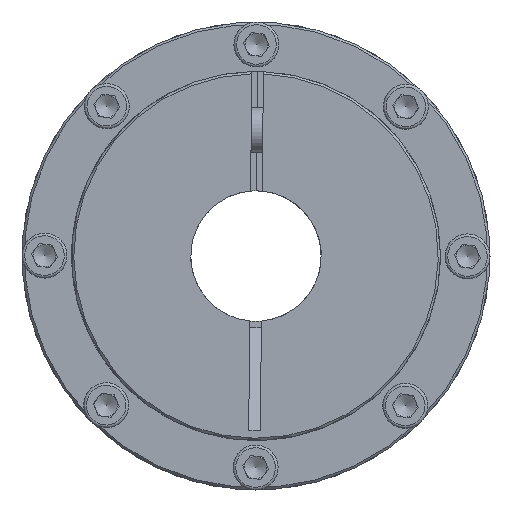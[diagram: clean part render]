
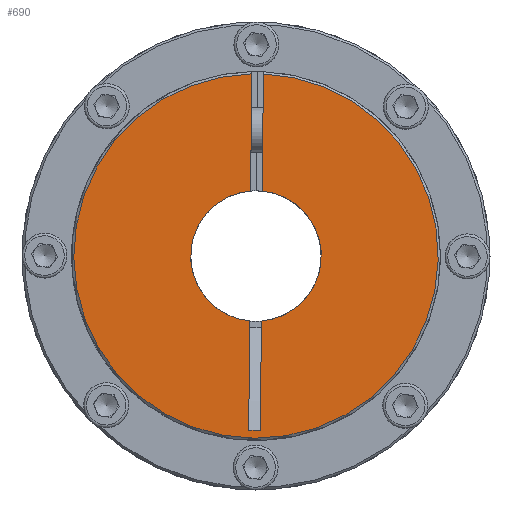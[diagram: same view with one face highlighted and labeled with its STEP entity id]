
A CAD part, left-side view. The second image highlights one B-rep face of the part: STEP entity #690.
In plain terms, the highlighted planar face has unit normal (-1, 0, 0).
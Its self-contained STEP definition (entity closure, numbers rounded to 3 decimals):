
#690 = ADVANCED_FACE( 'NONE', ( #1364 ), #1365, .F. );
#1364 = FACE_OUTER_BOUND( '', #2110, .T. );
#1365 = PLANE( '', #2111 );
#2110 = EDGE_LOOP( '', ( #3116, #3117, #3118, #3119, #3120, #3121, #3122, #3123 ) );
#2111 = AXIS2_PLACEMENT_3D( '', #3124, #3125, #3126 );
#3116 = ORIENTED_EDGE( '', *, *, #4084, .T. );
#3117 = ORIENTED_EDGE( '', *, *, #4085, .T. );
#3118 = ORIENTED_EDGE( '', *, *, #3973, .T. );
#3119 = ORIENTED_EDGE( '', *, *, #3999, .T. );
#3120 = ORIENTED_EDGE( '', *, *, #4086, .F. );
#3121 = ORIENTED_EDGE( '', *, *, #4087, .T. );
#3122 = ORIENTED_EDGE( '', *, *, #4088, .F. );
#3123 = ORIENTED_EDGE( '', *, *, #4089, .T. );
#3124 = CARTESIAN_POINT( '', ( 0., 7., 0. ) );
#3125 = DIRECTION( '', ( 1., 0., 0. ) );
#3126 = DIRECTION( '', ( 0., 1., 0. ) );
#3973 = EDGE_CURVE( '', #4585, #4586, #4587, .T. );
#3999 = EDGE_CURVE( 'NONE', #4586, #4626, #4627, .F. );
#4084 = EDGE_CURVE( 'NONE', #4749, #4750, #4751, .T. );
#4085 = EDGE_CURVE( '', #4750, #4585, #4752, .T. );
#4086 = EDGE_CURVE( '', #4753, #4626, #4754, .F. );
#4087 = EDGE_CURVE( '', #4753, #4755, #4756, .T. );
#4088 = EDGE_CURVE( 'NONE', #4757, #4755, #4758, .F. );
#4089 = EDGE_CURVE( 'NONE', #4757, #4749, #4759, .T. );
#4585 = VERTEX_POINT( '', #5506 );
#4586 = VERTEX_POINT( 'NONE', #5507 );
#4587 = LINE( '', #5508, #5509 );
#4626 = VERTEX_POINT( 'NONE', #5554 );
#4627 = CIRCLE( '', #5555, 40.5 );
#4749 = VERTEX_POINT( 'NONE', #5697 );
#4750 = VERTEX_POINT( '', #5698 );
#4751 = LINE( '', #5699, #5700 );
#4752 = CIRCLE( '', #5701, 14.5 );
#4753 = VERTEX_POINT( '', #5702 );
#4754 = LINE( '', #5703, #5704 );
#4755 = VERTEX_POINT( '', #5705 );
#4756 = CIRCLE( '', #5706, 14.5 );
#4757 = VERTEX_POINT( 'NONE', #5707 );
#4758 = LINE( '', #5708, #5709 );
#4759 = LINE( '', #5710, #5711 );
#5506 = CARTESIAN_POINT( '', ( 0., 1.3, 14.442 ) );
#5507 = CARTESIAN_POINT( '', ( 0., 1.3, 40.479 ) );
#5508 = CARTESIAN_POINT( '', ( 0., 1.3, 0. ) );
#5509 = VECTOR( '', #6284, 1000. );
#5554 = CARTESIAN_POINT( '', ( 0., -1.3, 40.479 ) );
#5555 = AXIS2_PLACEMENT_3D( '', #6324, #6325, #6326 );
#5697 = CARTESIAN_POINT( '', ( 0., 1.3, -38.697 ) );
#5698 = CARTESIAN_POINT( '', ( 0., 1.3, -14.442 ) );
#5699 = CARTESIAN_POINT( '', ( 0., 1.3, 0. ) );
#5700 = VECTOR( '', #6440, 1000. );
#5701 = AXIS2_PLACEMENT_3D( '', #6441, #6442, #6443 );
#5702 = CARTESIAN_POINT( '', ( 0., -1.3, 14.442 ) );
#5703 = CARTESIAN_POINT( '', ( 0., -1.3, 11. ) );
#5704 = VECTOR( '', #6444, 1000. );
#5705 = CARTESIAN_POINT( '', ( 0., -1.3, -14.442 ) );
#5706 = AXIS2_PLACEMENT_3D( '', #6445, #6446, #6447 );
#5707 = CARTESIAN_POINT( '', ( 0., -1.3, -38.697 ) );
#5708 = CARTESIAN_POINT( '', ( 0., -1.3, 11. ) );
#5709 = VECTOR( '', #6448, 1000. );
#5710 = CARTESIAN_POINT( '', ( 0., -1.3, -38.697 ) );
#5711 = VECTOR( '', #6449, 1000. );
#6284 = DIRECTION( '', ( 0., 0., 1. ) );
#6324 = CARTESIAN_POINT( '', ( 0., 0., 0. ) );
#6325 = DIRECTION( '', ( 1., 0., 0. ) );
#6326 = DIRECTION( '', ( 0., 0., -1. ) );
#6440 = DIRECTION( '', ( 0., 0., 1. ) );
#6441 = CARTESIAN_POINT( '', ( 0., 0., 0. ) );
#6442 = DIRECTION( '', ( 1., 0., 0. ) );
#6443 = DIRECTION( '', ( 0., 0., -1. ) );
#6444 = DIRECTION( '', ( 0., 0., -1. ) );
#6445 = CARTESIAN_POINT( '', ( 0., 0., 0. ) );
#6446 = DIRECTION( '', ( 1., 0., 0. ) );
#6447 = DIRECTION( '', ( 0., 0., -1. ) );
#6448 = DIRECTION( '', ( 0., 0., -1. ) );
#6449 = DIRECTION( '', ( 0., 1., 0. ) );
